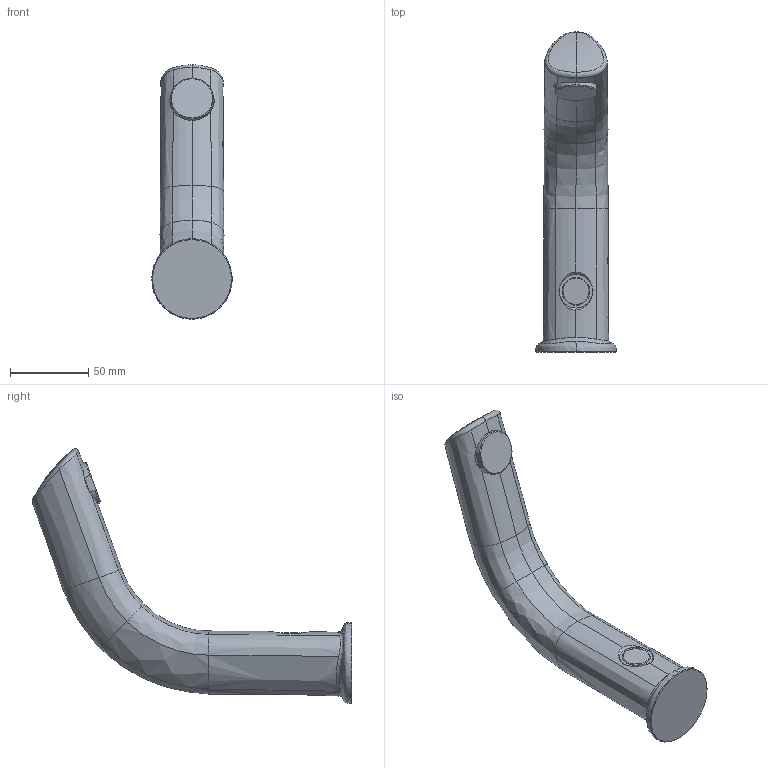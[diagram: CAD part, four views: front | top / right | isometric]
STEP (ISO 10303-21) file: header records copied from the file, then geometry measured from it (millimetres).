
FILE_DESCRIPTION (( 'STEP AP203' ), '1' );
FILE_NAME ('6204.STEP', '2018-07-11T11:28:35', ( '' ), ( '' ), 'SwSTEP 2.0', 'SolidWorks 2016', '' );
FILE_SCHEMA (( 'CONFIG_CONTROL_DESIGN' ));
Length unit declared in the file: millimetre
Products named in the file (1): 6204
Bounding box: 51.5 x 204.96 x 162.99 mm (x, y, z)
Volume: 336278.5 mm3; surface area: 38451.8 mm2
Topology: 1 solids, 2 shells, 77 faces, 197 edges, 128 vertices
Faces by surface type: bspline 39, cone 12, plane 12, cylinder 10, torus 4
Entity records: 8324 total; most frequent: CARTESIAN_POINT 6824, ORIENTED_EDGE 394, EDGE_CURVE 197, DIRECTION 178, VERTEX_POINT 128, EDGE_LOOP 83, FACE_OUTER_BOUND 77, ADVANCED_FACE 77
